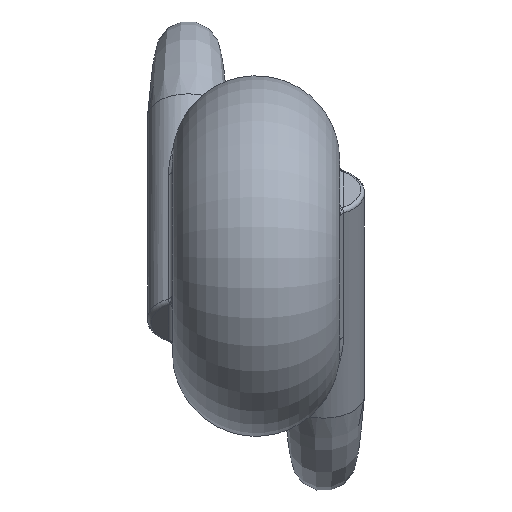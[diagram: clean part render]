
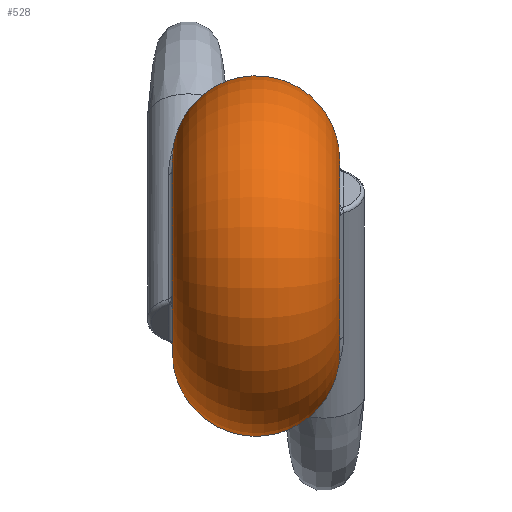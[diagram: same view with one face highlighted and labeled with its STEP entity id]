
A CAD part, left-side view. The second image highlights one B-rep face of the part: STEP entity #528.
In plain terms, the highlighted toroidal (fillet/blend) face has major radius 2.495 mm and minor radius 2.155 mm.
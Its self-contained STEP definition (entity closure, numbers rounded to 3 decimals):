
#20=TOROIDAL_SURFACE('',#582,2.495,2.155);
#77=B_SPLINE_CURVE_WITH_KNOTS('',3,(#1617,#1618,#1619,#1620,#1621,#1622,
#1623,#1624,#1625,#1626,#1627,#1628,#1629,#1630,#1631,#1632,#1633),
 .UNSPECIFIED.,.F.,.F.,(4,1,1,1,1,1,1,1,1,1,1,1,1,1,4),(-0.83,
-0.771,-0.711,-0.593,-0.534,
-0.474,-0.415,-0.356,-0.341,
-0.296,-0.237,-0.178,-0.119,
-0.059,0.),.UNSPECIFIED.);
#78=B_SPLINE_CURVE_WITH_KNOTS('',3,(#1639,#1640,#1641,#1642,#1643,#1644,
#1645,#1646,#1647,#1648,#1649,#1650,#1651,#1652,#1653,#1654,#1655),
 .UNSPECIFIED.,.F.,.F.,(4,1,1,1,1,1,1,1,1,1,1,1,1,1,4),(-0.83,
-0.771,-0.711,-0.593,-0.534,
-0.474,-0.415,-0.356,-0.341,
-0.296,-0.237,-0.178,-0.119,
-0.059,0.),.UNSPECIFIED.);
#95=FACE_BOUND('',#167,.T.);
#125=FACE_OUTER_BOUND('',#166,.T.);
#166=EDGE_LOOP('',(#417,#418));
#167=EDGE_LOOP('',(#419,#420));
#205=CIRCLE('',#583,2.495);
#206=CIRCLE('',#584,2.495);
#245=VERTEX_POINT('',#1527);
#246=VERTEX_POINT('',#1615);
#247=VERTEX_POINT('',#1637);
#248=VERTEX_POINT('',#1638);
#308=EDGE_CURVE('',#246,#245,#77,.T.);
#310=EDGE_CURVE('',#247,#248,#78,.T.);
#311=EDGE_CURVE('',#247,#248,#205,.T.);
#312=EDGE_CURVE('',#246,#245,#206,.T.);
#417=ORIENTED_EDGE('',*,*,#310,.T.);
#418=ORIENTED_EDGE('',*,*,#311,.F.);
#419=ORIENTED_EDGE('',*,*,#308,.T.);
#420=ORIENTED_EDGE('',*,*,#312,.F.);
#528=ADVANCED_FACE('',(#125,#95),#20,.T.);
#582=AXIS2_PLACEMENT_3D('',#1636,#693,#694);
#583=AXIS2_PLACEMENT_3D('',#1656,#695,#696);
#584=AXIS2_PLACEMENT_3D('',#1657,#697,#698);
#693=DIRECTION('center_axis',(0.,1.,0.));
#694=DIRECTION('ref_axis',(1.,0.,0.));
#695=DIRECTION('center_axis',(0.,-1.,0.));
#696=DIRECTION('ref_axis',(-1.,0.,0.));
#697=DIRECTION('center_axis',(0.,1.,0.));
#698=DIRECTION('ref_axis',(-1.,0.,0.));
#1527=CARTESIAN_POINT('',(1.178,3.5,2.199));
#1615=CARTESIAN_POINT('',(2.483,3.5,0.248));
#1617=CARTESIAN_POINT('Ctrl Pts',(2.483,3.5,0.248));
#1618=CARTESIAN_POINT('Ctrl Pts',(2.585,3.5,0.408));
#1619=CARTESIAN_POINT('Ctrl Pts',(2.798,3.48,0.719));
#1620=CARTESIAN_POINT('Ctrl Pts',(3.264,3.305,1.268));
#1621=CARTESIAN_POINT('Ctrl Pts',(3.685,2.887,1.726));
#1622=CARTESIAN_POINT('Ctrl Pts',(3.806,2.361,2.239));
#1623=CARTESIAN_POINT('Ctrl Pts',(3.705,2.002,2.665));
#1624=CARTESIAN_POINT('Ctrl Pts',(3.409,1.784,3.114));
#1625=CARTESIAN_POINT('Ctrl Pts',(3.09,1.799,3.418));
#1626=CARTESIAN_POINT('Ctrl Pts',(2.796,1.918,3.623));
#1627=CARTESIAN_POINT('Ctrl Pts',(2.502,2.118,3.765));
#1628=CARTESIAN_POINT('Ctrl Pts',(2.163,2.513,3.754));
#1629=CARTESIAN_POINT('Ctrl Pts',(1.897,2.931,3.507));
#1630=CARTESIAN_POINT('Ctrl Pts',(1.686,3.253,3.118));
#1631=CARTESIAN_POINT('Ctrl Pts',(1.469,3.454,2.658));
#1632=CARTESIAN_POINT('Ctrl Pts',(1.284,3.5,2.346));
#1633=CARTESIAN_POINT('Ctrl Pts',(1.178,3.5,2.199));
#1636=CARTESIAN_POINT('Origin',(0.,1.345,0.));
#1637=CARTESIAN_POINT('',(2.483,-0.81,-0.248));
#1638=CARTESIAN_POINT('',(1.178,-0.81,-2.199));
#1639=CARTESIAN_POINT('Ctrl Pts',(2.483,-0.81,-0.248));
#1640=CARTESIAN_POINT('Ctrl Pts',(2.585,-0.81,-0.408));
#1641=CARTESIAN_POINT('Ctrl Pts',(2.798,-0.79,-0.719));
#1642=CARTESIAN_POINT('Ctrl Pts',(3.264,-0.615,-1.268));
#1643=CARTESIAN_POINT('Ctrl Pts',(3.685,-0.197,-1.726));
#1644=CARTESIAN_POINT('Ctrl Pts',(3.806,0.329,-2.239));
#1645=CARTESIAN_POINT('Ctrl Pts',(3.705,0.688,-2.665));
#1646=CARTESIAN_POINT('Ctrl Pts',(3.409,0.906,-3.114));
#1647=CARTESIAN_POINT('Ctrl Pts',(3.09,0.891,-3.418));
#1648=CARTESIAN_POINT('Ctrl Pts',(2.796,0.772,-3.623));
#1649=CARTESIAN_POINT('Ctrl Pts',(2.502,0.572,-3.765));
#1650=CARTESIAN_POINT('Ctrl Pts',(2.163,0.177,-3.754));
#1651=CARTESIAN_POINT('Ctrl Pts',(1.897,-0.241,-3.507));
#1652=CARTESIAN_POINT('Ctrl Pts',(1.686,-0.563,-3.118));
#1653=CARTESIAN_POINT('Ctrl Pts',(1.469,-0.764,-2.658));
#1654=CARTESIAN_POINT('Ctrl Pts',(1.284,-0.81,-2.346));
#1655=CARTESIAN_POINT('Ctrl Pts',(1.178,-0.81,-2.199));
#1656=CARTESIAN_POINT('Origin',(0.,-0.81,0.));
#1657=CARTESIAN_POINT('Origin',(0.,3.5,0.));
